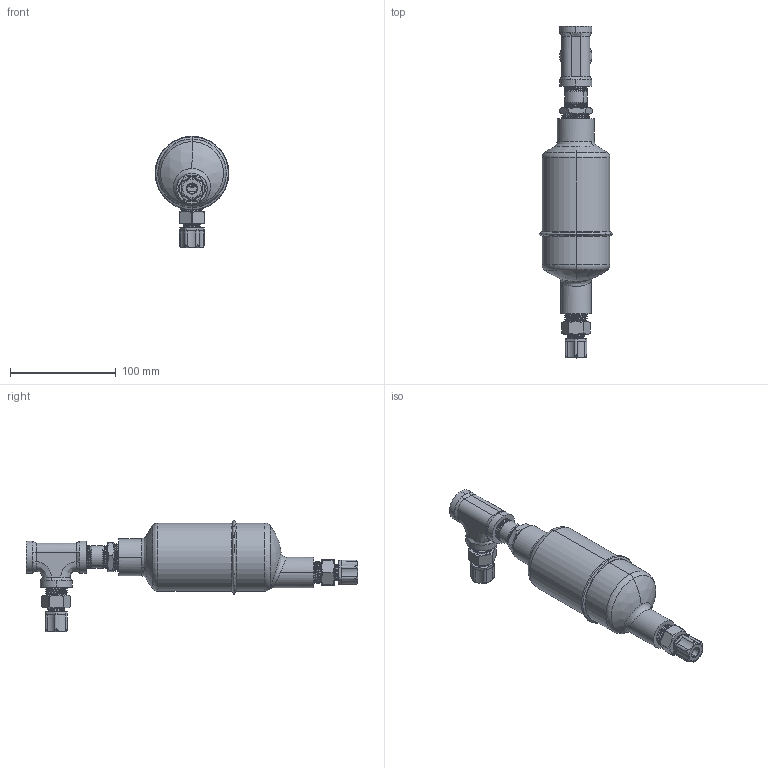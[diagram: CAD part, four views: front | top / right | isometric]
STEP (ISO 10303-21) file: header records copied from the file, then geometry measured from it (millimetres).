
FILE_DESCRIPTION (( 'STEP AP214' ), '1' );
FILE_NAME ('9-1145-03.STEP', '2018-07-25T16:48:05', ( '' ), ( '' ), 'SwSTEP 2.0', 'SolidWorks 2017', '' );
FILE_SCHEMA (( 'AUTOMOTIVE_DESIGN' ));
Length unit declared in the file: inch
Products named in the file (1): 9-1145-03
Bounding box: 69.71 x 313.52 x 105.24 mm (x, y, z)
Surface area: 63420 mm2 (no closed solid volume)
Topology: 0 solids, 17 shells, 449 faces, 1260 edges, 823 vertices
Faces by surface type: cone 165, cylinder 154, plane 60, bspline 52, torus 14, sphere 4
Entity records: 50830 total; most frequent: CARTESIAN_POINT 34764, ORIENTED_EDGE 2379, DIRECTION 1747, EDGE_CURVE 1260, VERTEX_POINT 823, AXIS2_PLACEMENT_3D 685, EDGE_LOOP 464, LENGTH_MEASURE_WITH_UNIT 451
